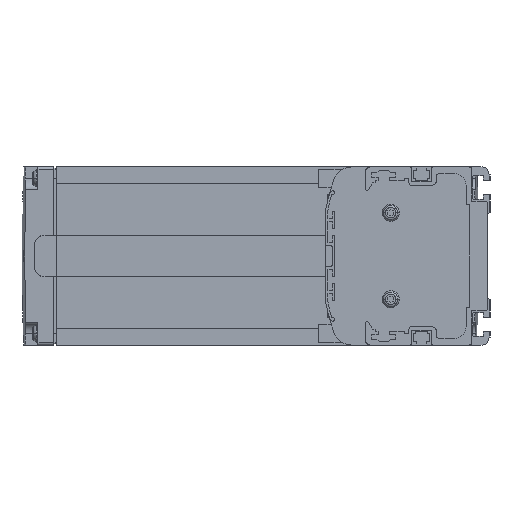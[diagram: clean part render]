
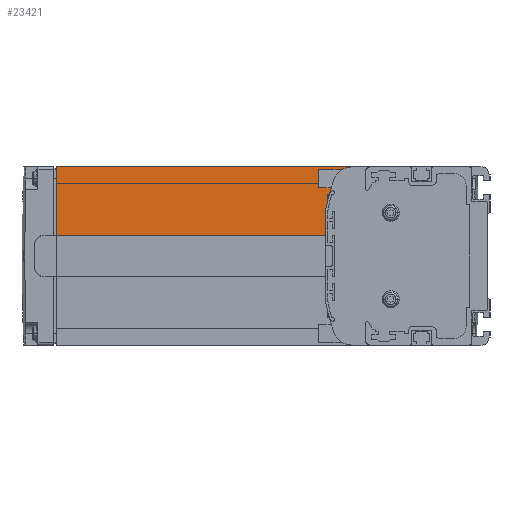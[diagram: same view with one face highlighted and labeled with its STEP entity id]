
A CAD part, left-side view. The second image highlights one B-rep face of the part: STEP entity #23421.
In plain terms, the highlighted planar face has unit normal (-1, 0, 0).
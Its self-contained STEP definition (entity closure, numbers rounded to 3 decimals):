
#1314=DIRECTION('',(0.,-1.,0.));
#1315=VECTOR('',#1314,0.571);
#1316=CARTESIAN_POINT('',(3.,71.,27.));
#1317=LINE('',#1316,#1315);
#1326=DIRECTION('',(0.,0.,1.));
#1327=VECTOR('',#1326,2.224);
#1328=CARTESIAN_POINT('',(3.,71.,24.776));
#1329=LINE('',#1328,#1327);
#1346=DIRECTION('',(0.,0.,-1.));
#1347=VECTOR('',#1346,29.9);
#1348=CARTESIAN_POINT('',(3.,190.,39.));
#1349=LINE('',#1348,#1347);
#4926=DIRECTION('',(0.,-1.,0.));
#4927=VECTOR('',#4926,129.245);
#4928=CARTESIAN_POINT('',(3.,190.,39.));
#4929=LINE('',#4928,#4927);
#6204=DIRECTION('',(0.,0.,-1.));
#6205=VECTOR('',#6204,10.723);
#6206=CARTESIAN_POINT('',(3.,72.,19.823));
#6207=LINE('',#6206,#6205);
#6220=CARTESIAN_POINT('',(3.,70.,19.823));
#6221=DIRECTION('',(1.,0.,0.));
#6222=DIRECTION('',(0.,1.,0.));
#6223=AXIS2_PLACEMENT_3D('',#6220,#6221,#6222);
#6229=CARTESIAN_POINT('',(3.,-6.765,6.));
#6230=DIRECTION('',(1.,0.,0.));
#6231=DIRECTION('',(0.,0.984,0.177));
#6232=AXIS2_PLACEMENT_3D('',#6229,#6230,#6231);
#6234=CARTESIAN_POINT('',(3.,-6.765,6.));
#6235=DIRECTION('',(1.,0.,0.));
#6236=DIRECTION('',(0.,0.965,0.263));
#6237=AXIS2_PLACEMENT_3D('',#6234,#6235,#6236);
#6243=CARTESIAN_POINT('',(3.,60.755,31.));
#6244=DIRECTION('',(-1.,0.,0.));
#6245=DIRECTION('',(0.,0.,1.));
#6246=AXIS2_PLACEMENT_3D('',#6243,#6244,#6245);
#10897=DIRECTION('',(0.,-1.,0.));
#10898=VECTOR('',#10897,118.);
#10899=CARTESIAN_POINT('',(3.,190.,9.1));
#10900=LINE('',#10899,#10898);
#17325=CARTESIAN_POINT('',(3.,190.,39.));
#17326=VERTEX_POINT('',#17325);
#17327=CARTESIAN_POINT('',(3.,190.,9.1));
#17328=VERTEX_POINT('',#17327);
#17357=CARTESIAN_POINT('',(3.,71.,27.));
#17359=VERTEX_POINT('',#17357);
#21225=CARTESIAN_POINT('',(3.,70.429,27.));
#21227=VERTEX_POINT('',#21225);
#21234=CARTESIAN_POINT('',(3.,71.,24.776));
#21236=VERTEX_POINT('',#21234);
#21244=CARTESIAN_POINT('',(3.,72.,9.1));
#21245=VERTEX_POINT('',#21244);
#21254=CARTESIAN_POINT('',(3.,72.,19.823));
#21255=CARTESIAN_POINT('',(3.,71.968,20.177));
#21256=VERTEX_POINT('',#21254);
#21257=VERTEX_POINT('',#21255);
#21258=CARTESIAN_POINT('',(3.,68.257,33.778));
#21259=VERTEX_POINT('',#21258);
#21260=CARTESIAN_POINT('',(3.,60.755,39.));
#21261=VERTEX_POINT('',#21260);
#23396=CARTESIAN_POINT('',(3.,105.,24.05));
#23397=DIRECTION('',(1.,0.,0.));
#23398=DIRECTION('',(0.,0.,1.));
#23399=AXIS2_PLACEMENT_3D('',#23396,#23397,#23398);
#23400=PLANE('',#23399);
#23402=ORIENTED_EDGE('',*,*,#23401,.F.);
#23404=ORIENTED_EDGE('',*,*,#23403,.T.);
#23406=ORIENTED_EDGE('',*,*,#23405,.F.);
#23408=ORIENTED_EDGE('',*,*,#23407,.F.);
#23410=ORIENTED_EDGE('',*,*,#23409,.T.);
#23412=ORIENTED_EDGE('',*,*,#23411,.T.);
#23414=ORIENTED_EDGE('',*,*,#23413,.F.);
#23415=ORIENTED_EDGE('',*,*,#23345,.F.);
#23416=ORIENTED_EDGE('',*,*,#23363,.F.);
#23418=ORIENTED_EDGE('',*,*,#23417,.F.);
#23419=EDGE_LOOP('',(#23402,#23404,#23406,#23408,#23410,#23412,#23414,#23415,
#23416,#23418));
#23420=FACE_OUTER_BOUND('',#23419,.F.);
#23421=ADVANCED_FACE('',(#23420),#23400,.F.);
#6224=CIRCLE('',#6223,2.);
#6233=CIRCLE('',#6232,80.);
#6238=CIRCLE('',#6237,80.);
#6247=CIRCLE('',#6246,8.);
#23345=EDGE_CURVE('',#17359,#21227,#1317,.T.);
#23363=EDGE_CURVE('',#21236,#17359,#1329,.T.);
#23401=EDGE_CURVE('',#21256,#21257,#6224,.T.);
#23403=EDGE_CURVE('',#21256,#21245,#6207,.T.);
#23405=EDGE_CURVE('',#17328,#21245,#10900,.T.);
#23407=EDGE_CURVE('',#17326,#17328,#1349,.T.);
#23409=EDGE_CURVE('',#17326,#21261,#4929,.T.);
#23411=EDGE_CURVE('',#21261,#21259,#6247,.T.);
#23413=EDGE_CURVE('',#21227,#21259,#6238,.T.);
#23417=EDGE_CURVE('',#21257,#21236,#6233,.T.);
